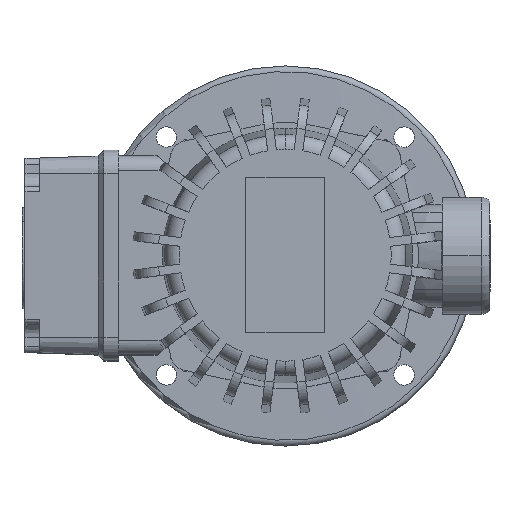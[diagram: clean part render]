
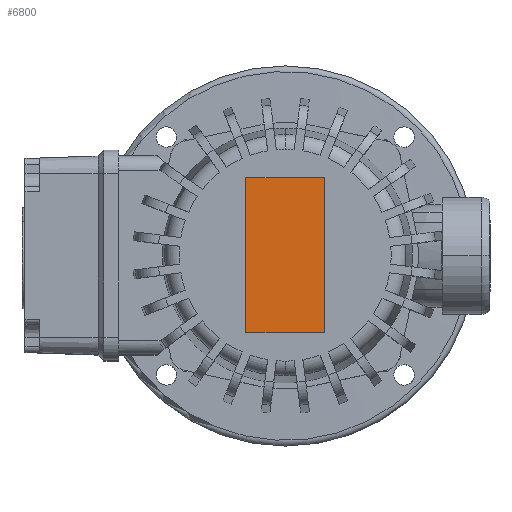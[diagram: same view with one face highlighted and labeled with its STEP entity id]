
A CAD part, top view. The second image highlights one B-rep face of the part: STEP entity #6800.
In plain terms, the highlighted planar face has unit normal (0, 0, 1).
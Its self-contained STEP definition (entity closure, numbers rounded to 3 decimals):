
#3406=EDGE_CURVE('',#7676,#8936,#9712,.T.);
#3564=VERTEX_POINT('',#9883);
#3866=VERTEX_POINT('',#10215);
#4722=EDGE_CURVE('',#3564,#3866,#11157,.T.);
#6282=EDGE_CURVE('',#8936,#3564,#12855,.T.);
#6800=ADVANCED_FACE('',(#13422),#13423,.T.);
#7676=VERTEX_POINT('',#14378);
#8300=EDGE_CURVE('',#3866,#7676,#15061,.T.);
#8936=VERTEX_POINT('',#15765);
#9712=LINE('',#16894,#16895);
#9883=CARTESIAN_POINT('',(13.5,-26.5,103.0));
#10215=CARTESIAN_POINT('',(-13.5,-26.5,103.0));
#11157=LINE('',#19783,#19784);
#12855=LINE('',#23263,#23264);
#13422=FACE_OUTER_BOUND('',#24366,.T.);
#13423=PLANE('',#24367);
#14378=CARTESIAN_POINT('',(-13.5,26.5,103.0));
#15061=LINE('',#27392,#27393);
#15765=CARTESIAN_POINT('',(13.5,26.5,103.0));
#16894=CARTESIAN_POINT('',(0.0,26.5,103.0));
#16895=VECTOR('',#30218,1.0);
#19783=CARTESIAN_POINT('',(0.0,-26.5,103.0));
#19784=VECTOR('',#31912,1.0);
#23263=CARTESIAN_POINT('',(13.5,0.0,103.0));
#23264=VECTOR('',#33823,1.0);
#24366=EDGE_LOOP('',(#34458,#34459,#34460,#34461));
#24367=AXIS2_PLACEMENT_3D('',#34462,#34463,#34464);
#27392=CARTESIAN_POINT('',(-13.5,0.0,103.0));
#27393=VECTOR('',#36167,1.0);
#30218=DIRECTION('',(1.0,0.0,0.0));
#31912=DIRECTION('',(-1.0,0.0,0.0));
#33823=DIRECTION('',(0.0,-1.0,0.0));
#34458=ORIENTED_EDGE('',*,*,#3406,.F.);
#34459=ORIENTED_EDGE('',*,*,#8300,.F.);
#34460=ORIENTED_EDGE('',*,*,#4722,.F.);
#34461=ORIENTED_EDGE('',*,*,#6282,.F.);
#34462=CARTESIAN_POINT('',(0.0,0.0,103.0));
#34463=DIRECTION('',(0.0,-0.0,1.0));
#34464=DIRECTION('',(0.0,1.0,0.0));
#36167=DIRECTION('',(0.0,1.0,0.0));
